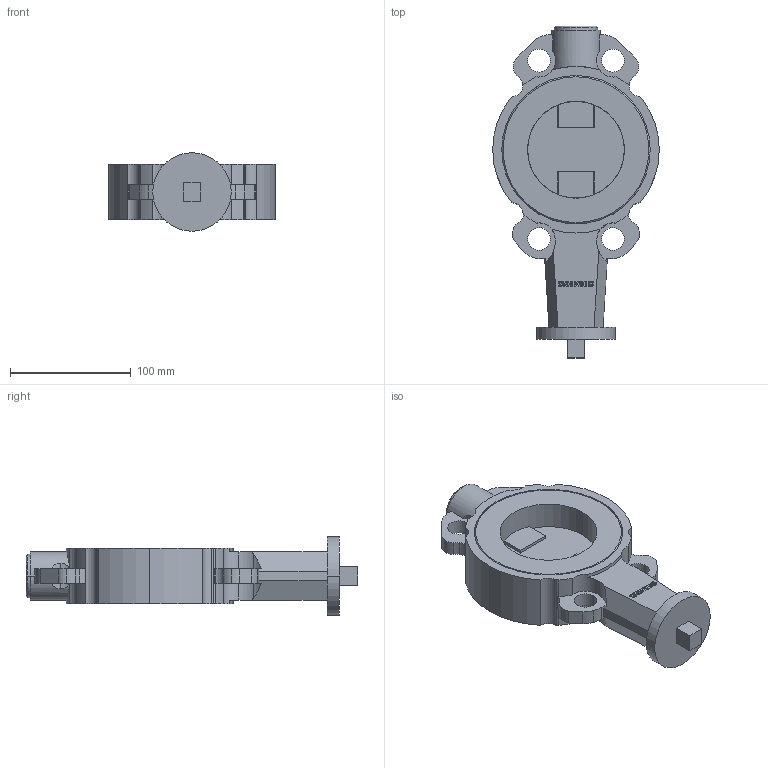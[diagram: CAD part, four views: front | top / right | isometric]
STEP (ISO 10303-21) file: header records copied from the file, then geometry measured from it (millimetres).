
FILE_DESCRIPTION((''),'2;1');
FILE_NAME('KL000013.dwg.stp','2006-10-04T11:30:45',(''),(''),'Mechanical Desktop 2006','Mechanical Desktop 2006',', , ');
FILE_SCHEMA(('AUTOMOTIVE_DESIGN { 1 2 10303 214 0 1 1 1 }'));
Length unit declared in the file: millimetre
Products named in the file (1): Product
Bounding box: 138 x 275 x 65 mm (x, y, z)
Volume: 687705.8 mm3; surface area: 134425.8 mm2
Topology: 20 solids, 20 shells, 480 faces, 1315 edges, 875 vertices
Faces by surface type: cylinder 241, plane 184, bspline 49, cone 6
Entity records: 16124 total; most frequent: CARTESIAN_POINT 3506, DIRECTION 2728, ORIENTED_EDGE 2630, EDGE_CURVE 1315, AXIS2_PLACEMENT_3D 999, VERTEX_POINT 875, VECTOR 730, LINE 730
